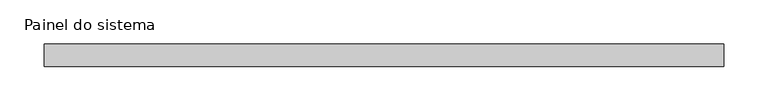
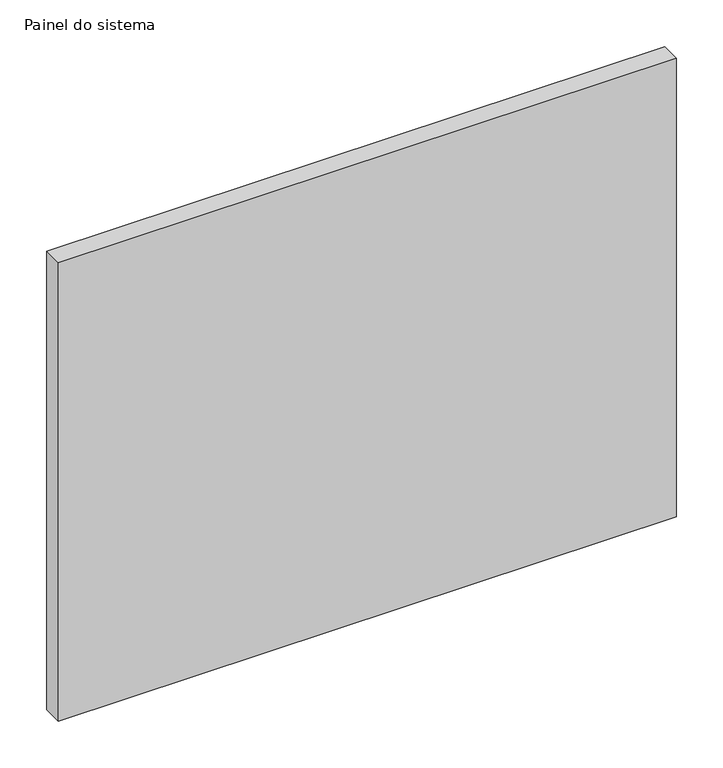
"""IFC4 building model written with IfcOpenShell, lengths in millimetres: plate geometry, Painel do sistema : Envidraçado."""

import ifcopenshell
import ifcopenshell.guid

model = None  # the IFC model being written
_history = None  # IfcOwnerHistory: only IFC2X3 demands one
_inside = {}  # id of a spatial element -> (the spatial element, [elements in it])
_under = {}  # id of a project, library or spatial element -> (it, [spatial elements below it])
_declared = {}  # id of a project -> (the project, [libraries it declares])
_typed = {}  # id of a type object -> (the type object, [elements of that type])
_made_of = {}  # id of a material, layer set ... -> (it, [elements and type objects made of it])


def new_model(schema):
    """Start an empty IFC model of exactly this schema.

    Asked for "IFC4X3", IfcOpenShell would pick the latest addendum, in which some entities
    have other attributes; the version numbers below select the first issue.
    IFC2X3 requires an IfcOwnerHistory on every rooted entity: one is made here for all.
    """
    global model, _history
    if schema == "IFC4X3":
        model = ifcopenshell.file(schema_version=(4, 3, 0, 0))
    else:
        model = ifcopenshell.file(schema=schema)
    _inside.clear()
    _under.clear()
    _declared.clear()
    _typed.clear()
    _made_of.clear()
    _history = None
    if model.schema == "IFC2X3":
        org = make("IfcOrganization", Name="unknown")
        user = make(
            "IfcPersonAndOrganization",
            ThePerson=make("IfcPerson", FamilyName="unknown"),
            TheOrganization=org,
        )
        app = make(
            "IfcApplication",
            ApplicationDeveloper=org,
            Version="unknown",
            ApplicationFullName="unknown",
            ApplicationIdentifier="unknown",
        )
        _history = make(
            "IfcOwnerHistory",
            OwningUser=user,
            OwningApplication=app,
            ChangeAction="ADDED",
            CreationDate=0,
        )
    return model


def make(cls, **values):
    """One entity of the class cls with the attributes given. An attribute that is None is left unset."""
    return model.create_entity(
        cls, **{name: value for name, value in values.items() if value is not None}
    )


def rooted(cls, **values):
    """An entity with a GlobalId (a new one), such as an element, a storey or a relation."""
    return make(cls, GlobalId=ifcopenshell.guid.new(), OwnerHistory=_history, **values)


def si_unit(unit_type, name, prefix=None):
    """IfcSIUnit, for example si_unit("LENGTHUNIT", "METRE", prefix="MILLI")."""
    return make("IfcSIUnit", UnitType=unit_type, Prefix=prefix, Name=name)


def assignment(units):
    """IfcUnitAssignment: the units of a project."""
    return None if units is None else make("IfcUnitAssignment", Units=units)


def point(xyz):
    """IfcCartesianPoint."""
    return None if xyz is None else make("IfcCartesianPoint", Coordinates=xyz)


def direction(xyz):
    """IfcDirection."""
    return None if xyz is None else make("IfcDirection", DirectionRatios=xyz)


def frame(location, z_axis=None, x_axis=None):
    """IfcAxis2Placement3D, a coordinate frame: its origin and axes. An axis left out is left unset."""
    return make(
        "IfcAxis2Placement3D",
        Location=point(location),
        Axis=direction(z_axis),
        RefDirection=direction(x_axis),
    )


def origin():
    """The frame at (0, 0, 0) with its axes left unset."""
    return frame((0.0, 0.0, 0.0))


def origin_with_axes():
    """The frame at (0, 0, 0) with the z axis (0, 0, 1) and the x axis (1, 0, 0) written out."""
    return frame((0.0, 0.0, 0.0), z_axis=(0.0, 0.0, 1.0), x_axis=(1.0, 0.0, 0.0))


def place(relative_to, where):
    """IfcLocalPlacement: puts the frame where relative to a parent placement (None: the world)."""
    return make(
        "IfcLocalPlacement", PlacementRelTo=relative_to, RelativePlacement=where
    )


def context(
    kind, dimensions, precision=None, world=None, true_north=None, identifier=None
):
    """IfcGeometricRepresentationContext, for example the 3D "Model" context."""
    return make(
        "IfcGeometricRepresentationContext",
        ContextIdentifier=identifier,
        ContextType=kind,
        CoordinateSpaceDimension=dimensions,
        Precision=precision,
        WorldCoordinateSystem=world,
        TrueNorth=true_north,
    )


def project(units=None, contexts=None):
    """IfcProject with its units and contexts."""
    return rooted(
        "IfcProject",
        Name="project",
        RepresentationContexts=contexts,
        UnitsInContext=assignment(units),
    )


def spatial(cls, under=None, at=None, **own):
    """A site, building, storey or space (cls), placed at a placement, below another one or the project."""
    s = rooted(cls, ObjectPlacement=at, **own)
    if under is not None:
        _under.setdefault(under.id(), (under, []))[1].append(s)
    return s


def polyline(points):
    """IfcPolyline through the points."""
    return make("IfcPolyline", Points=[point(p) for p in points])


def outline(outer, holes=None, kind="AREA"):
    """IfcArbitraryClosedProfileDef: a profile drawn as a closed curve; with holes, ...WithVoids."""
    if holes is None:
        return make("IfcArbitraryClosedProfileDef", ProfileType=kind, OuterCurve=outer)
    return make(
        "IfcArbitraryProfileDefWithVoids",
        ProfileType=kind,
        OuterCurve=outer,
        InnerCurves=holes,
    )


def extrude(swept, where, along, depth):
    """IfcExtrudedAreaSolid: the profile swept, set in the frame where, extruded along a direction by depth."""
    return make(
        "IfcExtrudedAreaSolid",
        SweptArea=swept,
        Position=where,
        ExtrudedDirection=direction(along),
        Depth=depth,
    )


def shape(context_of_items, identifier, shape_type, items):
    """IfcShapeRepresentation: the items that make up one representation, for example the "Body"."""
    return make(
        "IfcShapeRepresentation",
        ContextOfItems=context_of_items,
        RepresentationIdentifier=identifier,
        RepresentationType=shape_type,
        Items=items,
    )


def source(mapping_origin, context_of_items, identifier, shape_type, items):
    """IfcRepresentationMap: a shape defined once, which mapped items show again and again."""
    return make(
        "IfcRepresentationMap",
        MappingOrigin=mapping_origin,
        MappedRepresentation=shape(context_of_items, identifier, shape_type, items),
    )


def transform(
    local_origin,
    x_axis=None,
    y_axis=None,
    z_axis=None,
    scale=None,
    scale2=None,
    scale3=None,
    uniform=True,
):
    """IfcCartesianTransformationOperator3D, or its non-uniform kind. x_axis, y_axis, z_axis: its Axis1, 2, 3."""
    if uniform:
        return make(
            "IfcCartesianTransformationOperator3D",
            Axis1=direction(x_axis),
            Axis2=direction(y_axis),
            LocalOrigin=point(local_origin),
            Scale=scale,
            Axis3=direction(z_axis),
        )
    return make(
        "IfcCartesianTransformationOperator3DnonUniform",
        Axis1=direction(x_axis),
        Axis2=direction(y_axis),
        LocalOrigin=point(local_origin),
        Scale=scale,
        Axis3=direction(z_axis),
        Scale2=scale2,
        Scale3=scale3,
    )


def mapped(mapping_source, mapping_target):
    """IfcMappedItem: shows the shape of a source again, moved by a transform."""
    return make(
        "IfcMappedItem", MappingSource=mapping_source, MappingTarget=mapping_target
    )


def made_of(thing, what):
    """Note that an element or type object is made of a material, layer set ...; save() writes the relation."""
    if what is not None:
        _made_of.setdefault(what.id(), (what, []))[1].append(thing)
    return thing


def element(
    cls,
    number,
    at=None,
    inside=None,
    cuts=None,
    type_object=None,
    material=None,
    context=None,
    identifier="Body",
    shape_type=None,
    held_by="IfcProductDefinitionShape",
    body=None,
    shapes=None,
    **own,
):
    """One element of the class cls, such as IfcWall. Its Tag is "e" and its number.

    at: its placement. inside: the storey or other place that contains it. cuts: it is an
    opening in that element (IfcRelVoidsElement). A single representation is given by context,
    identifier, shape_type and body (its items); several are given by shapes. held_by: the class
    of the entity that holds the representations. save() writes the other relations.
    """
    e = rooted(cls, Tag="e%d" % number, ObjectPlacement=at, **own)
    if body is not None:
        shapes = [shape(context, identifier, shape_type, body)]
    if shapes is not None:
        e.Representation = make(held_by, Representations=shapes)
    if inside is not None:
        _inside.setdefault(inside.id(), (inside, []))[1].append(e)
    if cuts is not None:
        rooted(
            "IfcRelVoidsElement", RelatingBuildingElement=cuts, RelatedOpeningElement=e
        )
    if type_object is not None:
        _typed.setdefault(type_object.id(), (type_object, []))[1].append(e)
    return made_of(e, material)


def aggregate(whole, parts):
    """IfcRelAggregates: a whole, such as a stair, and the parts it consists of."""
    return rooted("IfcRelAggregates", RelatingObject=whole, RelatedObjects=parts)


def save(model, path):
    """Write the relations noted so far, then the file.

    IfcRelAggregates (storeys below a building ...), IfcRelContainedInSpatialStructure (elements
    in a storey), IfcRelDefinesByType, IfcRelAssociatesMaterial and IfcRelDeclares: one each for
    every whole, place, type object, material and project.
    """
    for whole, parts in _under.values():
        aggregate(whole, parts)
    for where, things in _inside.values():
        rooted(
            "IfcRelContainedInSpatialStructure",
            RelatedElements=things,
            RelatingStructure=where,
        )
    for kind, things in _typed.values():
        rooted("IfcRelDefinesByType", RelatedObjects=things, RelatingType=kind)
    for what, things in _made_of.values():
        rooted("IfcRelAssociatesMaterial", RelatedObjects=things, RelatingMaterial=what)
    for by, libraries in _declared.values():
        rooted("IfcRelDeclares", RelatingContext=by, RelatedDefinitions=libraries)
    model.write(path)


def painel_do_sistema_bb67a229(model_context):
    return source(origin(), model_context, "Body", "SweptSolid", [
        extrude(outline(polyline([(382.5, 24.5), (-382.5, 24.5), (-382.5, 49.5), (382.5, 49.5), (382.5, 24.5)])), origin_with_axes(), (0.0, 0.0, 1.0), 600.0),
    ])


if __name__ == "__main__":
    model = new_model("IFC4")
    model_context = context("Model", 3, world=origin())
    ifc_project = project(units=[si_unit("LENGTHUNIT", "METRE", prefix="MILLI")], contexts=[model_context])
    site = spatial("IfcSite", under=ifc_project)
    building = spatial("IfcBuilding", under=site)
    placement = place(None, origin())
    painel_do_sistema_shape = painel_do_sistema_bb67a229(model_context)
    element("IfcPlate", 1, ObjectType="Painel do sistema : Envidraçado", at=placement, inside=building, context=model_context, shape_type="MappedRepresentation", body=[
        mapped(painel_do_sistema_shape, transform((0.0, 0.0, 0.0), x_axis=(1.0, 0.0, 0.0), y_axis=(0.0, 1.0, 0.0), z_axis=(0.0, 0.0, 1.0))),
    ])
    save(model, "model.ifc")
